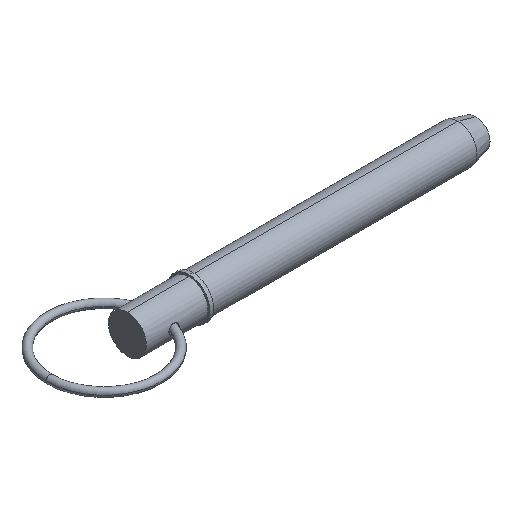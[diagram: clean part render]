
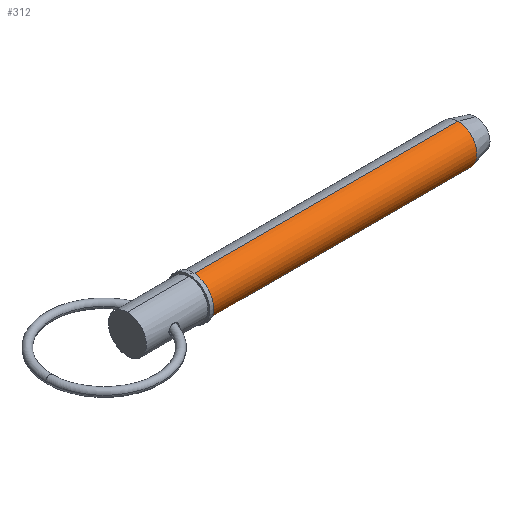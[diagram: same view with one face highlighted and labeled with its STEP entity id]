
A CAD part, isometric view. The second image highlights one B-rep face of the part: STEP entity #312.
In plain terms, the highlighted cylindrical face has radius 11.115 mm (diameter 22.23 mm), a partial arc.
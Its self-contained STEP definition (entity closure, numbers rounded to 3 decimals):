
#31 = DIRECTION ( 'NONE',  ( 0., 0., -1. ) ) ;
#109 = DIRECTION ( 'NONE',  ( 1., 0., 0. ) ) ;
#196 = CARTESIAN_POINT ( 'NONE',  ( 38.1, 0., 0. ) ) ;
#206 = DIRECTION ( 'NONE',  ( 1., 0., 0. ) ) ;
#224 = DIRECTION ( 'NONE',  ( 1., 0., 0. ) ) ;
#236 = CARTESIAN_POINT ( 'NONE',  ( 38.1, 0., -11.115 ) ) ;
#262 = EDGE_CURVE ( 'NONE', #507, #634, #532, .T. ) ;
#263 = LINE ( 'NONE', #349, #655 ) ;
#277 = EDGE_CURVE ( 'NONE', #710, #1028, #263, .T. ) ;
#312 = ADVANCED_FACE ( 'NONE', ( #514 ), #770, .T. ) ;
#349 = CARTESIAN_POINT ( 'NONE',  ( 0., 0., 11.115 ) ) ;
#357 = ORIENTED_EDGE ( 'NONE', *, *, #650, .T. ) ;
#378 = AXIS2_PLACEMENT_3D ( 'NONE', #1061, #224, #891 ) ;
#400 = ORIENTED_EDGE ( 'NONE', *, *, #813, .F. ) ;
#465 = ORIENTED_EDGE ( 'NONE', *, *, #277, .F. ) ;
#467 = CARTESIAN_POINT ( 'NONE',  ( 38.1, 0., 11.115 ) ) ;
#485 = CIRCLE ( 'NONE', #657, 11.115 ) ;
#499 = VECTOR ( 'NONE', #206, 1000. ) ;
#507 = VERTEX_POINT ( 'NONE', #236 ) ;
#514 = FACE_OUTER_BOUND ( 'NONE', #698, .T. ) ;
#532 = LINE ( 'NONE', #877, #499 ) ;
#600 = CARTESIAN_POINT ( 'NONE',  ( 0., 0., 0. ) ) ;
#634 = VERTEX_POINT ( 'NONE', #706 ) ;
#650 = EDGE_CURVE ( 'NONE', #710, #507, #485, .T. ) ;
#655 = VECTOR ( 'NONE', #684, 1000. ) ;
#657 = AXIS2_PLACEMENT_3D ( 'NONE', #196, #109, #31 ) ;
#684 = DIRECTION ( 'NONE',  ( 1., 0., 0. ) ) ;
#698 = EDGE_LOOP ( 'NONE', ( #465, #357, #806, #400 ) ) ;
#706 = CARTESIAN_POINT ( 'NONE',  ( 192.83, 0., -11.115 ) ) ;
#710 = VERTEX_POINT ( 'NONE', #467 ) ;
#722 = DIRECTION ( 'NONE',  ( 0., 0., -1. ) ) ;
#730 = AXIS2_PLACEMENT_3D ( 'NONE', #600, #882, #722 ) ;
#770 = CYLINDRICAL_SURFACE ( 'NONE', #730, 11.115 ) ;
#806 = ORIENTED_EDGE ( 'NONE', *, *, #262, .T. ) ;
#813 = EDGE_CURVE ( 'NONE', #1028, #634, #851, .T. ) ;
#851 = CIRCLE ( 'NONE', #378, 11.115 ) ;
#877 = CARTESIAN_POINT ( 'NONE',  ( 0., 0., -11.115 ) ) ;
#882 = DIRECTION ( 'NONE',  ( 1., 0., 0. ) ) ;
#891 = DIRECTION ( 'NONE',  ( 0., 0., -1. ) ) ;
#1006 = CARTESIAN_POINT ( 'NONE',  ( 192.83, 0., 11.115 ) ) ;
#1028 = VERTEX_POINT ( 'NONE', #1006 ) ;
#1061 = CARTESIAN_POINT ( 'NONE',  ( 192.83, 0., 0. ) ) ;
